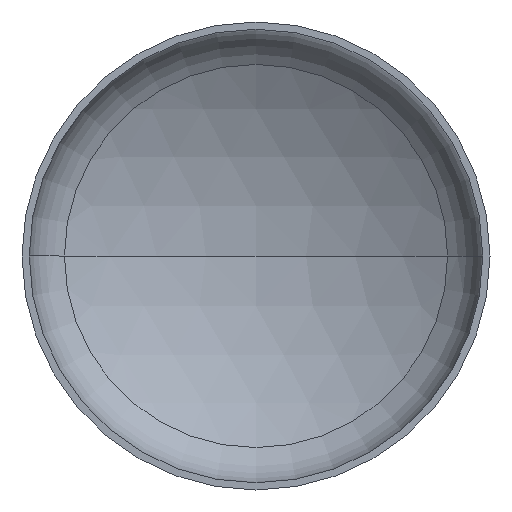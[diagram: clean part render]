
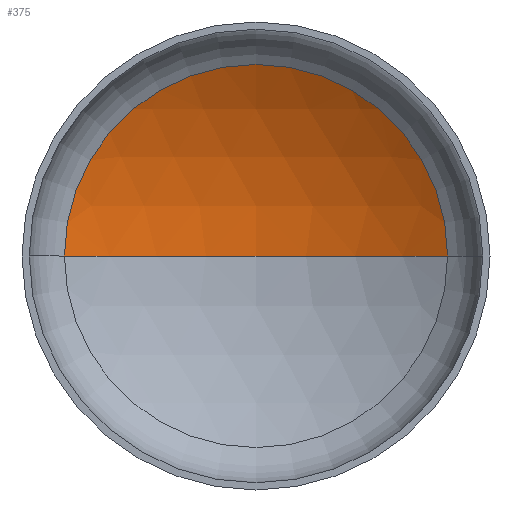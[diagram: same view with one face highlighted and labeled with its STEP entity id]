
A CAD part, front view. The second image highlights one B-rep face of the part: STEP entity #375.
In plain terms, the highlighted spherical face has radius 6000 mm.
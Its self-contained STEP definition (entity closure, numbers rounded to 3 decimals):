
#29 = VERTEX_POINT ( 'NONE', #215 ) ;
#42 = EDGE_LOOP ( 'NONE', ( #124, #80, #62 ) ) ;
#48 = AXIS2_PLACEMENT_3D ( 'NONE', #136, #119, #53 ) ;
#53 = DIRECTION ( 'NONE',  ( 1., 0., 0. ) ) ;
#54 = AXIS2_PLACEMENT_3D ( 'NONE', #237, #236, #235 ) ;
#57 = AXIS2_PLACEMENT_3D ( 'NONE', #231, #230, #146 ) ;
#62 = ORIENTED_EDGE ( 'NONE', *, *, #95, .T. ) ;
#66 = VERTEX_POINT ( 'NONE', #228 ) ;
#80 = ORIENTED_EDGE ( 'NONE', *, *, #96, .T. ) ;
#95 = EDGE_CURVE ( 'NONE', #29, #140, #354, .T. ) ;
#96 = EDGE_CURVE ( 'NONE', #66, #29, #222, .T. ) ;
#98 = EDGE_CURVE ( 'NONE', #66, #140, #395, .T. ) ;
#119 = DIRECTION ( 'NONE',  ( 0., 0., 1. ) ) ;
#124 = ORIENTED_EDGE ( 'NONE', *, *, #98, .F. ) ;
#136 = CARTESIAN_POINT ( 'NONE',  ( 0., -4087.762, 0. ) ) ;
#140 = VERTEX_POINT ( 'NONE', #209 ) ;
#146 = DIRECTION ( 'NONE',  ( 1., 0., 0. ) ) ;
#148 = DIRECTION ( 'NONE',  ( 0., 0., -1. ) ) ;
#156 = AXIS2_PLACEMENT_3D ( 'NONE', #368, #148, #378 ) ;
#179 = FACE_OUTER_BOUND ( 'NONE', #42, .T. ) ;
#209 = CARTESIAN_POINT ( 'NONE',  ( -3069.969, 1067.361, 0. ) ) ;
#215 = CARTESIAN_POINT ( 'NONE',  ( 3069.969, 1067.361, 0. ) ) ;
#222 = CIRCLE ( 'NONE', #54, 6000. ) ;
#228 = CARTESIAN_POINT ( 'NONE',  ( 0., 1912.238, 0. ) ) ;
#230 = DIRECTION ( 'NONE',  ( 0., -1., 0. ) ) ;
#231 = CARTESIAN_POINT ( 'NONE',  ( 0., 1067.361, 0. ) ) ;
#235 = DIRECTION ( 'NONE',  ( -1., 0., 0. ) ) ;
#236 = DIRECTION ( 'NONE',  ( 0., 0., -1. ) ) ;
#237 = CARTESIAN_POINT ( 'NONE',  ( 0., -4087.762, 0. ) ) ;
#354 = CIRCLE ( 'NONE', #57, 3069.969 ) ;
#356 = SPHERICAL_SURFACE ( 'NONE', #156, 6000. ) ;
#368 = CARTESIAN_POINT ( 'NONE',  ( 0., -4087.762, 0. ) ) ;
#375 = ADVANCED_FACE ( 'NONE', ( #179 ), #356, .F. ) ;
#378 = DIRECTION ( 'NONE',  ( -1., 0., 0. ) ) ;
#395 = CIRCLE ( 'NONE', #48, 6000. ) ;
